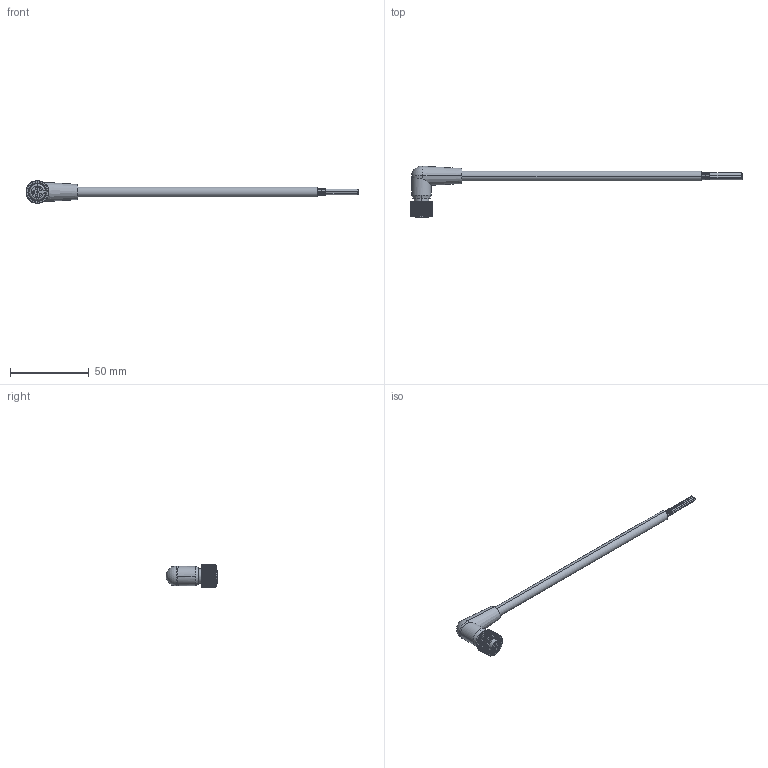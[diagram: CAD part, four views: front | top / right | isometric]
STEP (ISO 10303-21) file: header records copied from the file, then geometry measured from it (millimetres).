
FILE_DESCRIPTION (( 'STEP AP214' ), '1' );
FILE_NAME ('MACB-6FP-ZZ-R.STEP', '2014-09-02T11:19:42', ( 'Mencom User' ), ( 'Hewlett-Packard Company' ), 'SwSTEP 2.0', 'SolidWorks 2014', '' );
FILE_SCHEMA (( 'AUTOMOTIVE_DESIGN' ));
Length unit declared in the file: inch
Products named in the file (1): MACB-6FP-ZZ-R
Bounding box: 210.91 x 33.01 x 14.6 mm (x, y, z)
Volume: 9474.7 mm3; surface area: 8319.6 mm2
Topology: 21 solids, 21 shells, 828 faces, 2311 edges, 1535 vertices
Faces by surface type: cylinder 515, plane 260, bspline 31, cone 16, torus 4, sphere 2
Entity records: 40948 total; most frequent: CARTESIAN_POINT 10050, ORIENTED_EDGE 4618, DIRECTION 3540, EDGE_CURVE 2309, VERTEX_POINT 1534, AXIS2_PLACEMENT_3D 1342, B_SPLINE_CURVE_WITH_KNOTS 890, EDGE_LOOP 863
